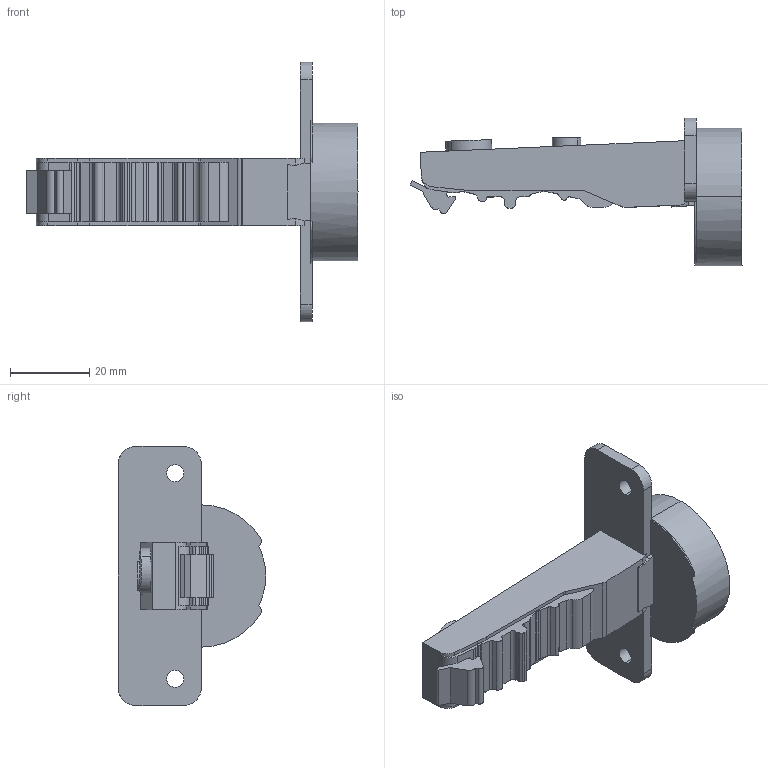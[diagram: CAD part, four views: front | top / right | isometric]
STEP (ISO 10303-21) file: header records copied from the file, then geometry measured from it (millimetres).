
FILE_DESCRIPTION (( 'STEP AP203' ), '1' );
FILE_NAME ('C82A676FA-DTC 3D close.STEP', '2024-09-06T00:56:33', ( '微软用户' ), ( '微软中国' ), 'SwSTEP 2.0', 'SolidWorks 2021', '' );
FILE_SCHEMA (( 'CONFIG_CONTROL_DESIGN' ));
Length unit declared in the file: millimetre
Products named in the file (1): C82A676FA-DTC 3D close
Bounding box: 83.95 x 37.28 x 65.56 mm (x, y, z)
Volume: 30926.7 mm3; surface area: 9948.6 mm2
Topology: 1 solids, 1 shells, 129 faces, 373 edges, 248 vertices
Faces by surface type: cylinder 62, plane 61, bspline 6
Entity records: 4478 total; most frequent: CARTESIAN_POINT 948, ORIENTED_EDGE 746, DIRECTION 723, EDGE_CURVE 373, VERTEX_POINT 248, AXIS2_PLACEMENT_3D 248, VECTOR 227, LINE 227
